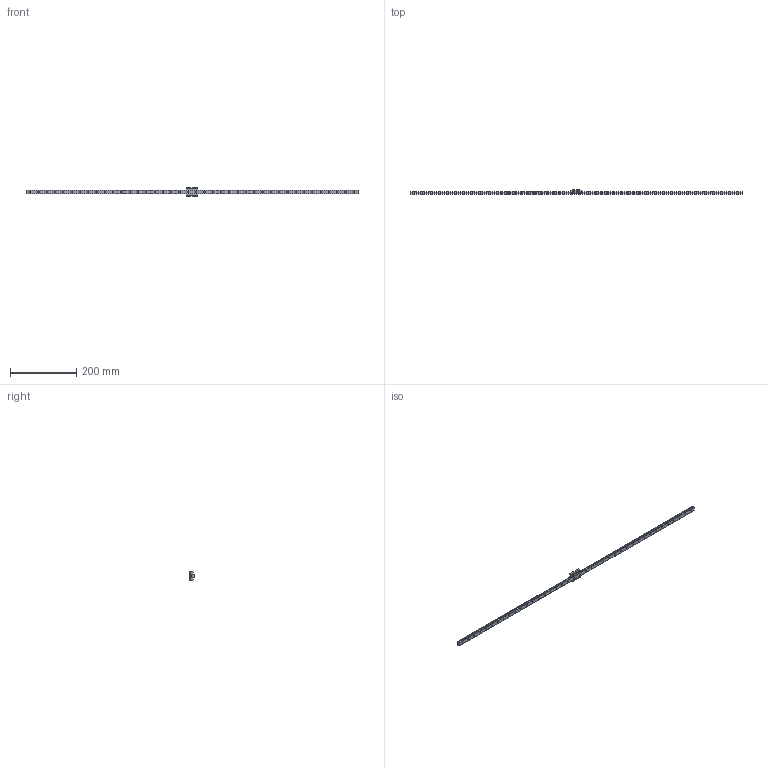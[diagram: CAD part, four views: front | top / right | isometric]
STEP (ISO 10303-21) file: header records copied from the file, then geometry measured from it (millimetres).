
FILE_DESCRIPTION( ( '' ), '1' );
FILE_NAME( 'C:/Users/v3-771-32344/Documents/Website 2016/STEP/SRS12M1UU100012.50482.8000.stp', '2016-11-10T13:09:45', ( '' ), ( '' ), ' ', ' ', ' ' );
FILE_SCHEMA( ( 'CONFIG_CONTROL_DESIGN' ) );
Length unit declared in the file: millimetre
Products named in the file (2): 1; 2
Bounding box: 1000 x 13 x 27 mm (x, y, z)
Volume: 88024 mm3; surface area: 46848 mm2
Topology: 2 solids, 2 shells, 316 faces, 782 edges, 508 vertices
Faces by surface type: cylinder 190, plane 110, cone 16
Entity records: 9702 total; most frequent: DIRECTION 1798, CARTESIAN_POINT 1600, ORIENTED_EDGE 1548, EDGE_CURVE 774, AXIS2_PLACEMENT_3D 706, VERTEX_POINT 508, EDGE_LOOP 442, LINE 386
